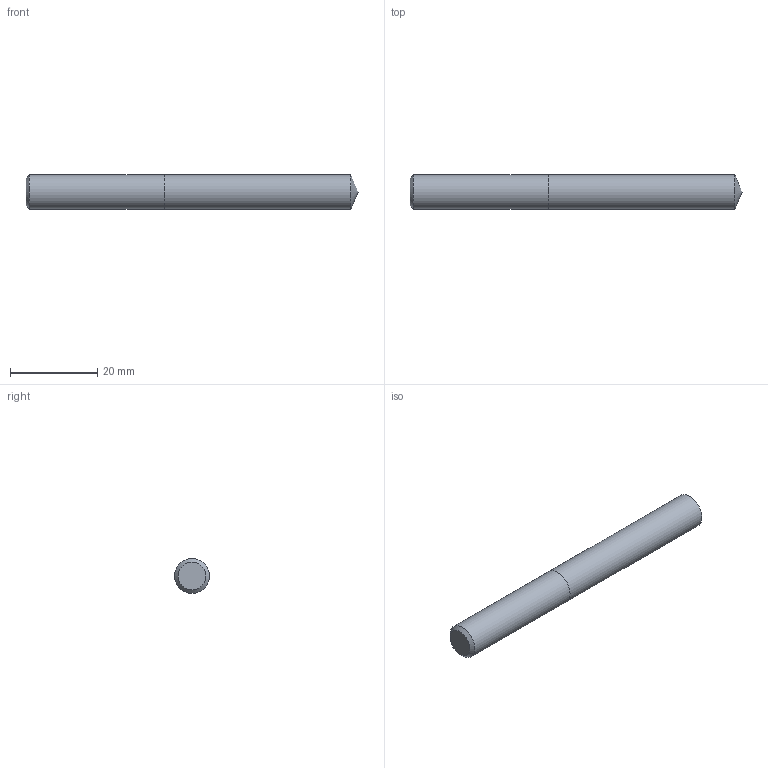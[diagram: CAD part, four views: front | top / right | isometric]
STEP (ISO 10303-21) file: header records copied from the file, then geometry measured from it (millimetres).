
FILE_DESCRIPTION (( 'STEP AP214' ), '1' );
FILE_NAME ('03-2331.STEP', '2022-06-03T06:19:17', ( 'USER' ), ( '' ), 'SwSTEP 2.0', 'SolidWorks 2018', '' );
FILE_SCHEMA (( 'AUTOMOTIVE_DESIGN' ));
Length unit declared in the file: inch
Products named in the file (1): 03-2331
Bounding box: 76.27 x 8.03 x 8.03 mm (x, y, z)
Volume: 3795.7 mm3; surface area: 2075.3 mm2
Topology: 2 solids, 2 shells, 7 faces, 11 edges, 7 vertices
Faces by surface type: plane 3, cylinder 2, cone 2
Full cylindrical faces by diameter (mm): 8.026 x2
Entity records: 214 total; most frequent: DIRECTION 26, CARTESIAN_POINT 18, AXIS2_PLACEMENT_3D 13, ORIENTED_EDGE 10, EDGE_LOOP 10, FACE_OUTER_BOUND 9, LENGTH_MEASURE_WITH_UNIT 7, ADVANCED_FACE 7
